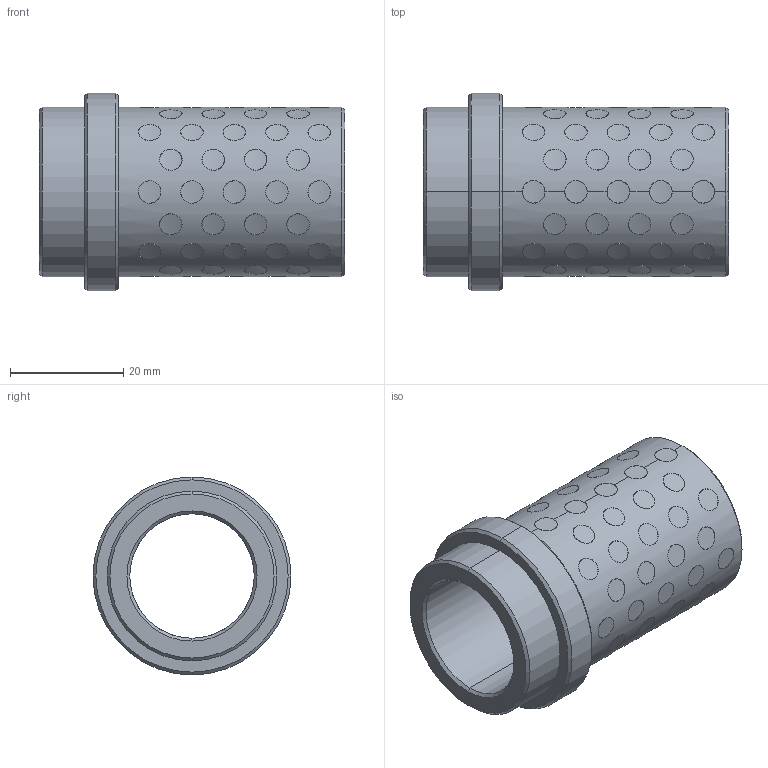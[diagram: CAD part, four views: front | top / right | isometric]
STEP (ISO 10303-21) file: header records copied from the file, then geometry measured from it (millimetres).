
FILE_DESCRIPTION((''),'2;1');
FILE_NAME('G31222046','2017-12-30T',('MANU'),(''),'PRO/ENGINEER BY PARAMETRIC TECHNOLOGY CORPORATION, 2012130','PRO/ENGINEER BY PARAMETRIC TECHNOLOGY CORPORATION, 2012130','');
FILE_SCHEMA(('CONFIG_CONTROL_DESIGN'));
Length unit declared in the file: millimetre
Products named in the file (1): G31222046
Bounding box: 54 x 35 x 35 mm (x, y, z)
Volume: 19016.1 mm3; surface area: 17110.5 mm2
Topology: 73 solids, 73 shells, 456 faces, 972 edges, 644 vertices
Faces by surface type: cylinder 440, cone 12, plane 4
Entity records: 21182 total; most frequent: CARTESIAN_POINT 12272, ORIENTED_EDGE 1944, DIRECTION 1296, EDGE_CURVE 972, VERTEX_POINT 644, B_SPLINE_CURVE_WITH_KNOTS 616, EDGE_LOOP 584, AXIS2_PLACEMENT_3D 484
